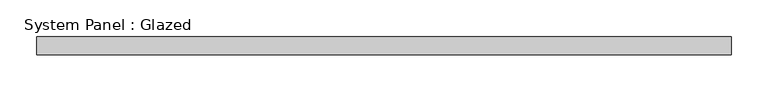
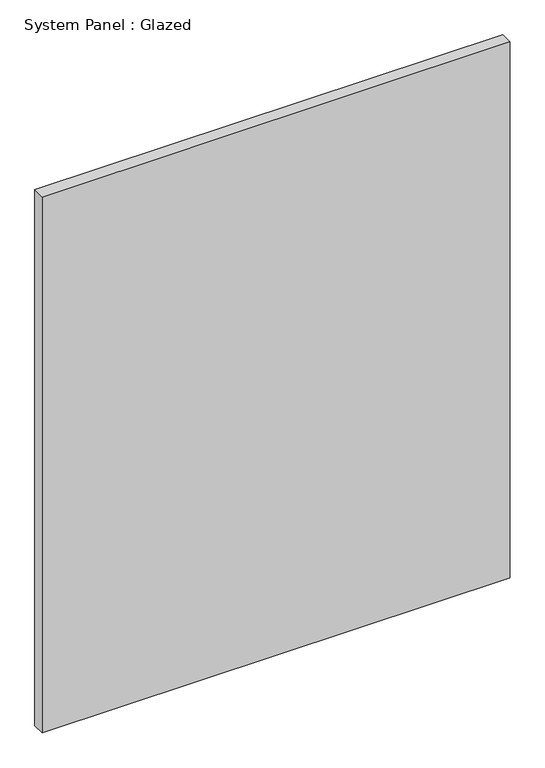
"""IFC4 building model written with IfcOpenShell, lengths in millimetres: plate geometry, System Panel : Glazed."""

from ifc_helpers import new_model, si_unit, origin, origin_with_axes, place, context, project, spatial, polyline, outline, extrude, source, transform, mapped, element, save


def system_panel_glazed_892a108f(model_context):
    return source(origin(), model_context, "Body", "SweptSolid", [
        extrude(outline(polyline([(475.0, 24.5), (-475.0, 24.5), (-475.0, 49.5), (475.0, 49.5), (475.0, 24.5)])), origin_with_axes(), (0.0, 0.0, 1.0), 1149.8468786),
    ])


if __name__ == "__main__":
    model = new_model("IFC4")
    model_context = context("Model", 3, world=origin())
    ifc_project = project(units=[si_unit("LENGTHUNIT", "METRE", prefix="MILLI")], contexts=[model_context])
    site = spatial("IfcSite", under=ifc_project)
    building = spatial("IfcBuilding", under=site)
    placement = place(None, origin())
    system_panel_glazed_shape = system_panel_glazed_892a108f(model_context)
    element("IfcPlate", 1, ObjectType="System Panel : Glazed", at=placement, inside=building, context=model_context, shape_type="MappedRepresentation", body=[
        mapped(system_panel_glazed_shape, transform((0.0, 0.0, 0.0), x_axis=(1.0, 0.0, 0.0), y_axis=(0.0, 1.0, 0.0), z_axis=(0.0, 0.0, 1.0))),
    ])
    save(model, "model.ifc")
